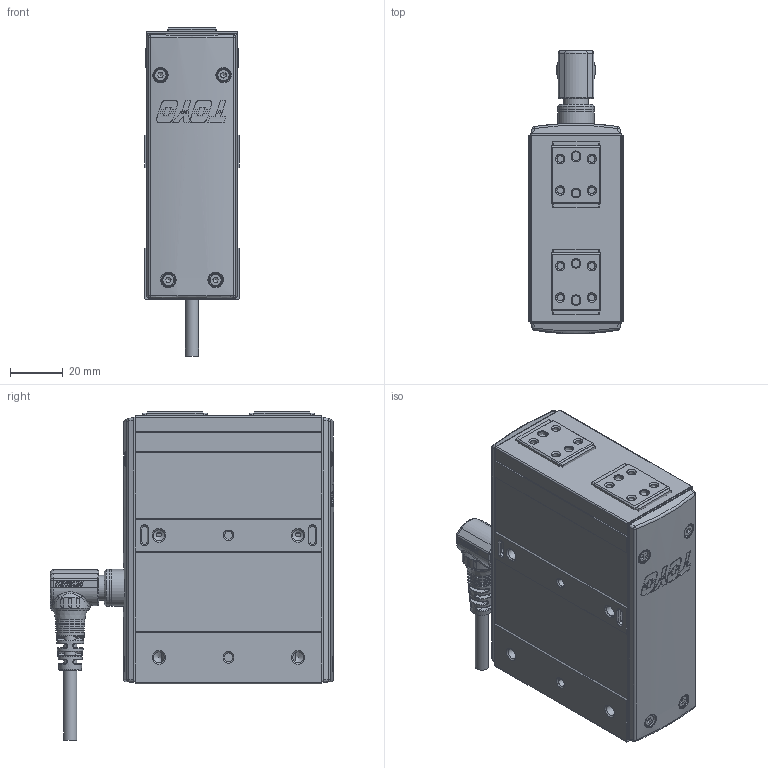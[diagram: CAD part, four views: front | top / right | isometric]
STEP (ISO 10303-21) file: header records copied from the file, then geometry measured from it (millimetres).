
FILE_DESCRIPTION(/* description */ ('STEP AP214'),/* implementation_level */ '2;1');
FILE_NAME(/* name */ 'D:\2025.02.25 帶電匯整給泊舟\CHZ2-S14-WW.stp',/* time_stamp */ '2025-02-26T10:45:51+08:00',/* author */ ('T10033'),/* organization */ (''),/* preprocessor_version */ 'ST-DEVELOPER v18.1',/* originating_system */ 'Autodesk Inventor 2020',/* authorisation */ '');
FILE_SCHEMA (('CONFIG_CONTROL_DESIGN'));
Products named in the file (5): CHZ2-S14; 慶陞金屬頭; 62TW34T6SE34_Shrinkwrap_1; 6T3Y7E45_Shrinkwrap_1; M12-14PIN 線端90度接頭-05中繼線
Assembly tree (5 placements, depth 2):
  CHZ2-S14
    慶陞金屬頭
    62TW34T6SE34_Shrinkwrap_1
    6T3Y7E45_Shrinkwrap_1  x2
    M12-14PIN 線端90度接頭-05中繼線
Bounding box: 36 x 107.8 x 125 mm (x, y, z)
Volume: 287094 mm3; surface area: 60298.7 mm2
Topology: 37 solids, 41 shells, 2696 faces, 7276 edges, 4769 vertices
Faces by surface type: plane 1526, cylinder 506, cone 378, bspline 157, torus 109, sphere 20
Full cylindrical faces by diameter (mm): 0.6 x14, 0.65 x14, 1 x18, 2.05 x16, 2.5 x20, 2.7 x8, 3 x5, 4.2 x12, 4.5 x8, 4.7 x4, 5 x1, 5.5 x2, 6.8 x2, 8 x1, 8.9 x1, 9.5 x2, 9.6 x1, 10.5 x2, 10.9 x1, 11 x2, 11.2 x1, 11.25 x1, 12 x1, 13 x1, 13.8 x1, 14 x2, 14.4 x1
Entity records: 114012 total; most frequent: CARTESIAN_POINT 46679, DIRECTION 13626, ORIENTED_EDGE 13604, EDGE_CURVE 6810, AXIS2_PLACEMENT_3D 5025, VERTEX_POINT 4492, LINE 3576, VECTOR 3576
